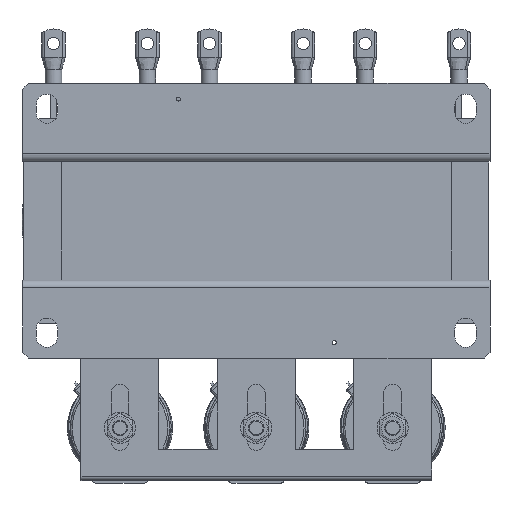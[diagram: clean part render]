
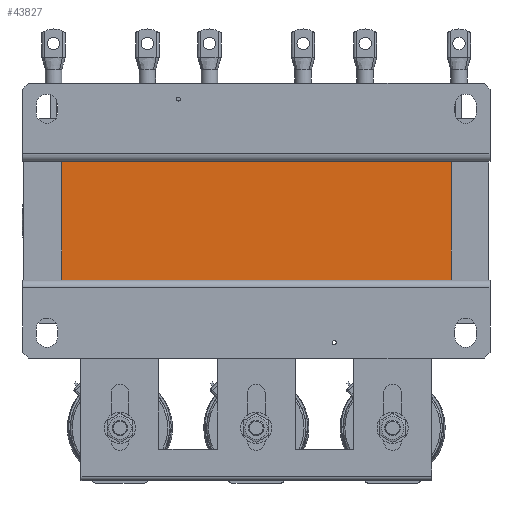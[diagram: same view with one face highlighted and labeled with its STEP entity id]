
A CAD part, front view. The second image highlights one B-rep face of the part: STEP entity #43827.
In plain terms, the highlighted planar face has unit normal (0, -1, 0).
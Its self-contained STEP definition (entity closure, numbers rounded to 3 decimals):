
#2661=PLANE('',#47161);
#4713=FACE_OUTER_BOUND('',#7272,.T.);
#7272=EDGE_LOOP('',(#36950,#36951,#36952,#36953));
#12742=LINE('',#71698,#16702);
#12743=LINE('',#71700,#16703);
#12744=LINE('',#71702,#16704);
#12745=LINE('',#71703,#16705);
#16702=VECTOR('',#56886,10.);
#16703=VECTOR('',#56887,10.);
#16704=VECTOR('',#56888,10.);
#16705=VECTOR('',#56889,10.);
#20704=VERTEX_POINT('',#71696);
#20705=VERTEX_POINT('',#71697);
#20706=VERTEX_POINT('',#71699);
#20707=VERTEX_POINT('',#71701);
#26393=EDGE_CURVE('',#20704,#20705,#12742,.T.);
#26394=EDGE_CURVE('',#20706,#20705,#12743,.T.);
#26395=EDGE_CURVE('',#20706,#20707,#12744,.T.);
#26396=EDGE_CURVE('',#20704,#20707,#12745,.T.);
#36950=ORIENTED_EDGE('',*,*,#26393,.T.);
#36951=ORIENTED_EDGE('',*,*,#26394,.F.);
#36952=ORIENTED_EDGE('',*,*,#26395,.T.);
#36953=ORIENTED_EDGE('',*,*,#26396,.F.);
#43827=ADVANCED_FACE('',(#4713),#2661,.T.);
#47161=AXIS2_PLACEMENT_3D('',#71695,#56884,#56885);
#56884=DIRECTION('center_axis',(0.,-1.,0.));
#56885=DIRECTION('ref_axis',(1.,0.,0.));
#56886=DIRECTION('',(0.,0.,1.));
#56887=DIRECTION('',(1.,0.,0.));
#56888=DIRECTION('',(0.,0.,-1.));
#56889=DIRECTION('',(-1.,0.,0.));
#71695=CARTESIAN_POINT('Origin',(-100.,-95.5,0.));
#71696=CARTESIAN_POINT('',(100.,-95.5,-30.5));
#71697=CARTESIAN_POINT('',(100.,-95.5,30.5));
#71698=CARTESIAN_POINT('',(100.,-95.5,0.));
#71699=CARTESIAN_POINT('',(-100.,-95.5,30.5));
#71700=CARTESIAN_POINT('',(100.,-95.5,30.5));
#71701=CARTESIAN_POINT('',(-100.,-95.5,-30.5));
#71702=CARTESIAN_POINT('',(-100.,-95.5,0.));
#71703=CARTESIAN_POINT('',(100.,-95.5,-30.5));
